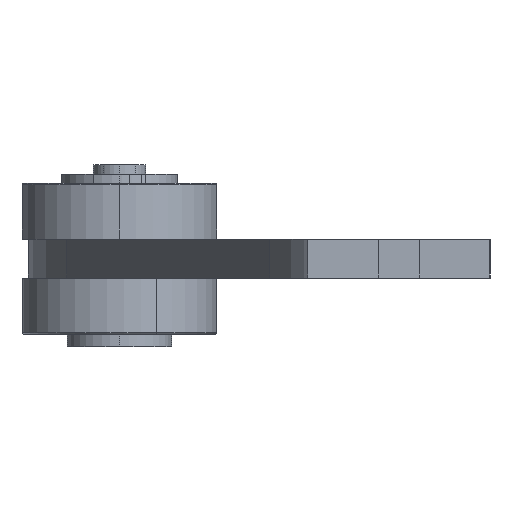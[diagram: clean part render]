
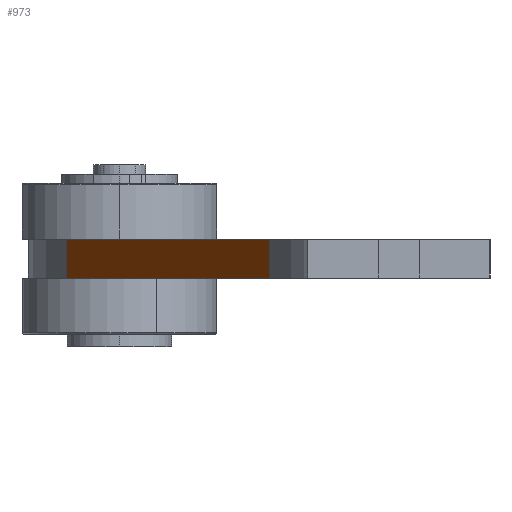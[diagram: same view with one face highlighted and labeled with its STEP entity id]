
A CAD part, left-side view. The second image highlights one B-rep face of the part: STEP entity #973.
In plain terms, the highlighted planar face has unit normal (-0.431, 0.902, 0).
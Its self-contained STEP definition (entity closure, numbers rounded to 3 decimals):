
#6 = DIRECTION ( 'NONE',  ( -0.902, -0.431, 0. ) ) ;
#47 = CARTESIAN_POINT ( 'NONE',  ( -36.134, 4.069, -3. ) ) ;
#169 = CARTESIAN_POINT ( 'NONE',  ( -36.134, 4.069, 0. ) ) ;
#403 = DIRECTION ( 'NONE',  ( -0.431, 0.902, 0. ) ) ;
#409 = DIRECTION ( 'NONE',  ( -0.902, -0.431, 0. ) ) ;
#480 = ORIENTED_EDGE ( 'NONE', *, *, #643, .T. ) ;
#488 = AXIS2_PLACEMENT_3D ( 'NONE', #880, #403, #409 ) ;
#643 = EDGE_CURVE ( 'NONE', #1369, #1706, #1752, .T. ) ;
#661 = EDGE_CURVE ( 'NONE', #790, #1168, #1714, .T. ) ;
#674 = EDGE_LOOP ( 'NONE', ( #890, #1053, #480, #1845 ) ) ;
#691 = VECTOR ( 'NONE', #1801, 1000. ) ;
#702 = CARTESIAN_POINT ( 'NONE',  ( -68.866, -11.569, 0. ) ) ;
#790 = VERTEX_POINT ( 'NONE', #1299 ) ;
#880 = CARTESIAN_POINT ( 'NONE',  ( -36.134, 4.069, -3. ) ) ;
#890 = ORIENTED_EDGE ( 'NONE', *, *, #661, .F. ) ;
#972 = DIRECTION ( 'NONE',  ( -0.902, -0.431, 0. ) ) ;
#973 = ADVANCED_FACE ( 'NONE', ( #1355 ), #1429, .T. ) ;
#1006 = LINE ( 'NONE', #1853, #691 ) ;
#1038 = VECTOR ( 'NONE', #972, 1000. ) ;
#1053 = ORIENTED_EDGE ( 'NONE', *, *, #1767, .F. ) ;
#1168 = VERTEX_POINT ( 'NONE', #702 ) ;
#1299 = CARTESIAN_POINT ( 'NONE',  ( -36.134, 4.069, 0. ) ) ;
#1303 = CARTESIAN_POINT ( 'NONE',  ( -68.866, -11.569, -3. ) ) ;
#1317 = VECTOR ( 'NONE', #1637, 1000. ) ;
#1354 = CARTESIAN_POINT ( 'NONE',  ( -36.134, 4.069, -3. ) ) ;
#1355 = FACE_OUTER_BOUND ( 'NONE', #674, .T. ) ;
#1359 = EDGE_CURVE ( 'NONE', #1706, #1168, #1646, .T. ) ;
#1369 = VERTEX_POINT ( 'NONE', #47 ) ;
#1419 = VECTOR ( 'NONE', #6, 1000. ) ;
#1429 = PLANE ( 'NONE',  #488 ) ;
#1637 = DIRECTION ( 'NONE',  ( 0., 0., 1. ) ) ;
#1646 = LINE ( 'NONE', #1667, #1317 ) ;
#1667 = CARTESIAN_POINT ( 'NONE',  ( -68.866, -11.569, -3. ) ) ;
#1706 = VERTEX_POINT ( 'NONE', #1303 ) ;
#1714 = LINE ( 'NONE', #169, #1038 ) ;
#1752 = LINE ( 'NONE', #1354, #1419 ) ;
#1767 = EDGE_CURVE ( 'NONE', #1369, #790, #1006, .T. ) ;
#1801 = DIRECTION ( 'NONE',  ( 0., 0., 1. ) ) ;
#1845 = ORIENTED_EDGE ( 'NONE', *, *, #1359, .T. ) ;
#1853 = CARTESIAN_POINT ( 'NONE',  ( -36.134, 4.069, -3. ) ) ;
